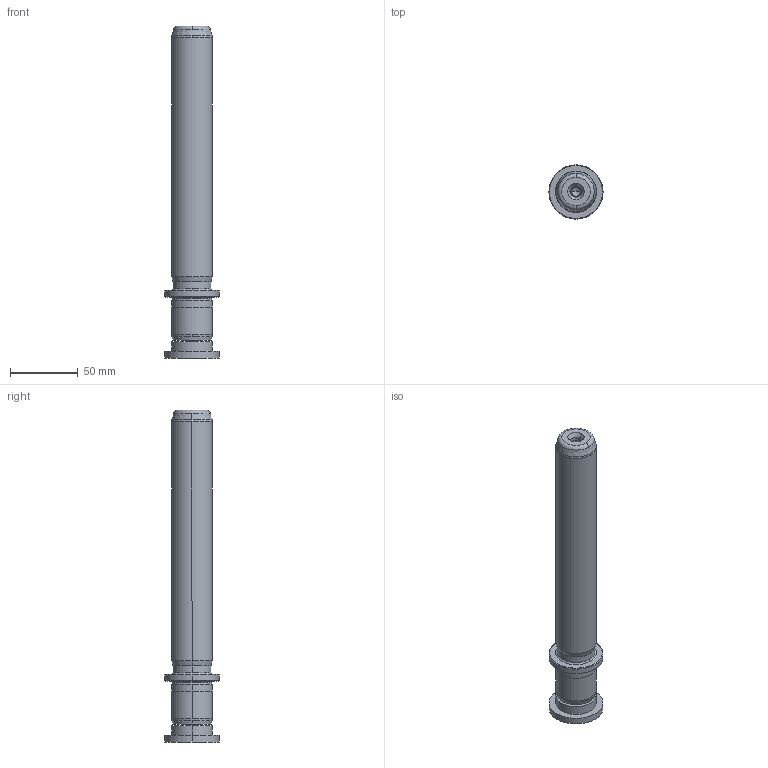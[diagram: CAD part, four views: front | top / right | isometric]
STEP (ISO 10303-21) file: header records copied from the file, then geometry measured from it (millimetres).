
FILE_DESCRIPTION((''),'2;1');
FILE_NAME('P22_030_200.stp','2009-02-03T10:21:17',(''),(''),'Mechanical Desktop 2009','Mechanical Desktop 2009',', , ');
FILE_SCHEMA(('CONFIG_CONTROL_DESIGN'));
Length unit declared in the file: millimetre
Products named in the file (2): Product; blmdl1
Assembly tree (1 placements, depth 2):
  Product
    blmdl1
Bounding box: 40 x 40 x 245 mm (x, y, z)
Volume: 174192.8 mm3; surface area: 30501.1 mm2
Topology: 3 solids, 3 shells, 99 faces, 237 edges, 149 vertices
Faces by surface type: cylinder 32, cone 28, plane 19, torus 10, bspline 10
Entity records: 3419 total; most frequent: CARTESIAN_POINT 923, DIRECTION 570, ORIENTED_EDGE 466, AXIS2_PLACEMENT_3D 246, EDGE_CURVE 233, CIRCLE 155, VERTEX_POINT 149, EDGE_LOOP 110
